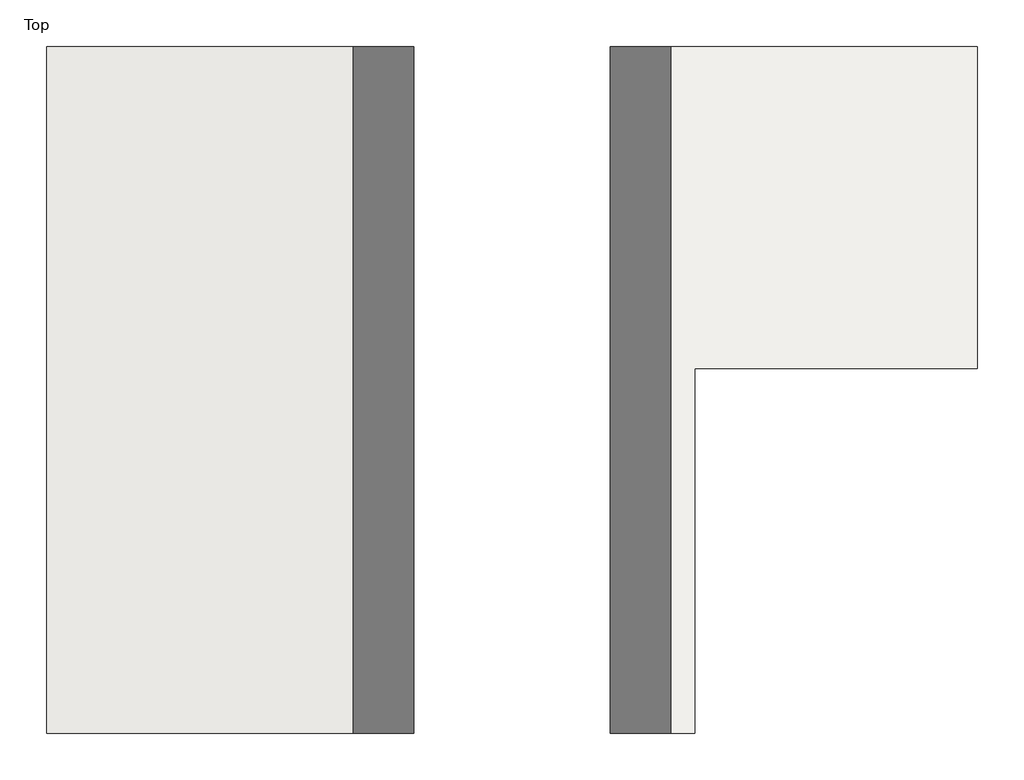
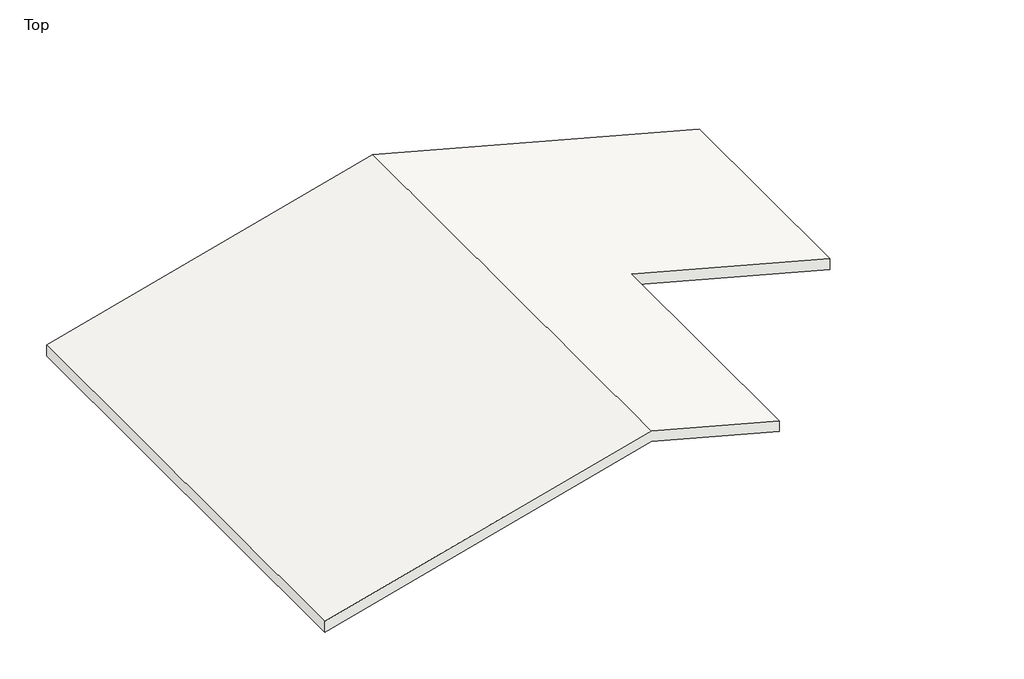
# One storey: 1 roof.
"""IFC4 building model written with IfcOpenShell, lengths in millimetres."""

from ifc_helpers import new_model, si_unit, origin, place, context, project, spatial, faceted_brep, element, save

model = new_model("IFC4")

# Units and contexts
model_context = context("Model", 3, world=origin())
ifc_project = project(units=[si_unit("LENGTHUNIT", "METRE", prefix="MILLI")], contexts=[model_context])

# Site, building, storey
site = spatial("IfcSite", under=ifc_project)
building = spatial("IfcBuilding", under=site)
storey = spatial("IfcBuildingStorey", under=building, Name="Top", Elevation=6000.0)

# Roof
placement = place(None, origin())
element("IfcRoof", 1, ObjectType="Generic Roof - 350mm - brick", at=placement, inside=storey, context=model_context, shape_type="Brep", body=[
    faceted_brep([(2132.918054, -8365.1659495, 7784.8509082), (-8187.081946, -8365.1659495, 5019.6152423), (-8187.081946, 6874.8340505, 5019.6152423), (2132.918054, 6874.8340505, 7784.8509082), (12452.918054, 6874.8340505, 5019.6152423), (12452.918054, -265.1659495, 5019.6152423), (6182.918054, -265.1659495, 6699.6566788), (6182.918054, -8365.1659495, 6699.6566788), (-8187.081946, -8365.1659495, 5381.9619054), (2132.918054, -8365.1659495, 8147.1975713), (2132.918054, 6874.8340505, 8147.1975713), (-8187.081946, 6874.8340505, 5381.9619054), (6182.918054, -8365.1659495, 7062.003342), (6182.918054, -265.1659495, 7062.003342), (12452.918054, -265.1659495, 5381.9619054), (12452.918054, 6874.8340505, 5381.9619054)], [[[0, 1, 2, 3]], [[0, 3, 4, 5, 6, 7]], [[8, 9, 10, 11]], [[10, 9, 12, 13, 14, 15]], [[4, 15, 14, 5]], [[8, 11, 2, 1]], [[1, 0, 7, 12, 9, 8]], [[3, 2, 11, 10, 15, 4]], [[13, 6, 5, 14]], [[6, 13, 12, 7]]]),
])

save(model, "model.ifc")
